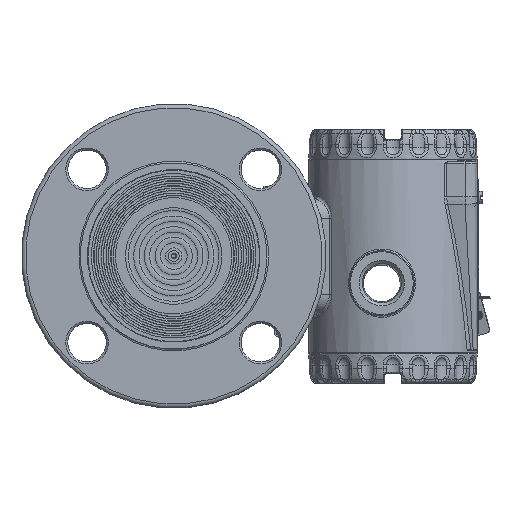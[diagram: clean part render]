
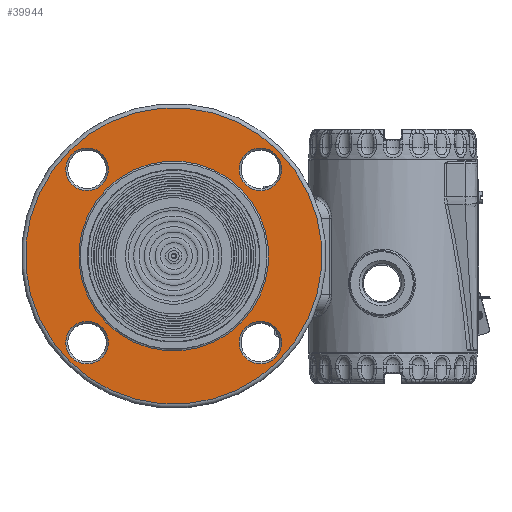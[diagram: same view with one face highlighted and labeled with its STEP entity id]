
A CAD part, top view. The second image highlights one B-rep face of the part: STEP entity #39944.
In plain terms, the highlighted planar face has unit normal (0, 0, 1) as drawn and (-1, 0, 0) by its records, which use the part's own axes.
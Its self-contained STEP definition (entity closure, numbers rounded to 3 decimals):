
#665=FACE_BOUND('',#6600,.T.);
#666=FACE_BOUND('',#6601,.T.);
#667=FACE_BOUND('',#6602,.T.);
#668=FACE_BOUND('',#6603,.T.);
#669=FACE_BOUND('',#6604,.T.);
#2572=PLANE('',#44385);
#3939=FACE_OUTER_BOUND('',#6599,.T.);
#6599=EDGE_LOOP('',(#30530,#30531));
#6600=EDGE_LOOP('',(#30532));
#6601=EDGE_LOOP('',(#30533));
#6602=EDGE_LOOP('',(#30534,#30535));
#6603=EDGE_LOOP('',(#30536));
#6604=EDGE_LOOP('',(#30537));
#13181=CIRCLE('',#44384,10.5);
#13182=CIRCLE('',#44386,73.);
#13183=CIRCLE('',#44387,73.);
#13184=CIRCLE('',#44388,10.5);
#13185=CIRCLE('',#44389,10.5);
#13186=CIRCLE('',#44390,46.75);
#13187=CIRCLE('',#44391,46.75);
#13188=CIRCLE('',#44392,10.5);
#17507=VERTEX_POINT('',#70648);
#17508=VERTEX_POINT('',#70652);
#17509=VERTEX_POINT('',#70653);
#17510=VERTEX_POINT('',#70656);
#17511=VERTEX_POINT('',#70658);
#17512=VERTEX_POINT('',#70660);
#17513=VERTEX_POINT('',#70661);
#17514=VERTEX_POINT('',#70664);
#22124=EDGE_CURVE('',#17507,#17507,#13181,.T.);
#22126=EDGE_CURVE('',#17508,#17509,#13182,.T.);
#22127=EDGE_CURVE('',#17509,#17508,#13183,.T.);
#22128=EDGE_CURVE('',#17510,#17510,#13184,.T.);
#22129=EDGE_CURVE('',#17511,#17511,#13185,.T.);
#22130=EDGE_CURVE('',#17512,#17513,#13186,.T.);
#22131=EDGE_CURVE('',#17513,#17512,#13187,.T.);
#22132=EDGE_CURVE('',#17514,#17514,#13188,.T.);
#30530=ORIENTED_EDGE('',*,*,#22126,.F.);
#30531=ORIENTED_EDGE('',*,*,#22127,.F.);
#30532=ORIENTED_EDGE('',*,*,#22128,.F.);
#30533=ORIENTED_EDGE('',*,*,#22129,.F.);
#30534=ORIENTED_EDGE('',*,*,#22130,.T.);
#30535=ORIENTED_EDGE('',*,*,#22131,.T.);
#30536=ORIENTED_EDGE('',*,*,#22132,.F.);
#30537=ORIENTED_EDGE('',*,*,#22124,.F.);
#39944=ADVANCED_FACE('',(#3939,#665,#666,#667,#668,#669),#2572,.T.);
#44384=AXIS2_PLACEMENT_3D('',#70649,#52275,#52276);
#44385=AXIS2_PLACEMENT_3D('',#70651,#52278,#52279);
#44386=AXIS2_PLACEMENT_3D('',#70654,#52280,#52281);
#44387=AXIS2_PLACEMENT_3D('',#70655,#52282,#52283);
#44388=AXIS2_PLACEMENT_3D('',#70657,#52284,#52285);
#44389=AXIS2_PLACEMENT_3D('',#70659,#52286,#52287);
#44390=AXIS2_PLACEMENT_3D('',#70662,#52288,#52289);
#44391=AXIS2_PLACEMENT_3D('',#70663,#52290,#52291);
#44392=AXIS2_PLACEMENT_3D('',#70665,#52292,#52293);
#52275=DIRECTION('center_axis',(-1.,0.,0.));
#52276=DIRECTION('ref_axis',(0.,-1.,0.));
#52278=DIRECTION('center_axis',(-1.,0.,0.));
#52279=DIRECTION('ref_axis',(0.,0.,1.));
#52280=DIRECTION('center_axis',(1.,0.,0.));
#52281=DIRECTION('ref_axis',(0.,1.,0.));
#52282=DIRECTION('center_axis',(1.,0.,0.));
#52283=DIRECTION('ref_axis',(0.,1.,0.));
#52284=DIRECTION('center_axis',(-1.,0.,0.));
#52285=DIRECTION('ref_axis',(0.,0.,1.));
#52286=DIRECTION('center_axis',(-1.,0.,0.));
#52287=DIRECTION('ref_axis',(0.,0.,-1.));
#52288=DIRECTION('center_axis',(1.,0.,0.));
#52289=DIRECTION('ref_axis',(0.,1.,0.));
#52290=DIRECTION('center_axis',(1.,0.,0.));
#52291=DIRECTION('ref_axis',(0.,1.,0.));
#52292=DIRECTION('center_axis',(-1.,0.,0.));
#52293=DIRECTION('ref_axis',(0.,1.,0.));
#70648=CARTESIAN_POINT('',(2.,70.85,0.));
#70649=CARTESIAN_POINT('Origin',(2.,60.35,0.));
#70651=CARTESIAN_POINT('Origin',(2.,59.875,0.));
#70652=CARTESIAN_POINT('',(2.,73.,0.));
#70653=CARTESIAN_POINT('',(2.,0.,73.));
#70654=CARTESIAN_POINT('Origin',(2.,0.,0.));
#70655=CARTESIAN_POINT('Origin',(2.,0.,0.));
#70656=CARTESIAN_POINT('',(2.,0.,-70.85));
#70657=CARTESIAN_POINT('Origin',(2.,0.,-60.35));
#70658=CARTESIAN_POINT('',(2.,0.,70.85));
#70659=CARTESIAN_POINT('Origin',(2.,0.,60.35));
#70660=CARTESIAN_POINT('',(2.,46.75,0.));
#70661=CARTESIAN_POINT('',(2.,0.,46.75));
#70662=CARTESIAN_POINT('Origin',(2.,0.,0.));
#70663=CARTESIAN_POINT('Origin',(2.,0.,0.));
#70664=CARTESIAN_POINT('',(2.,-70.85,0.));
#70665=CARTESIAN_POINT('Origin',(2.,-60.35,0.));
